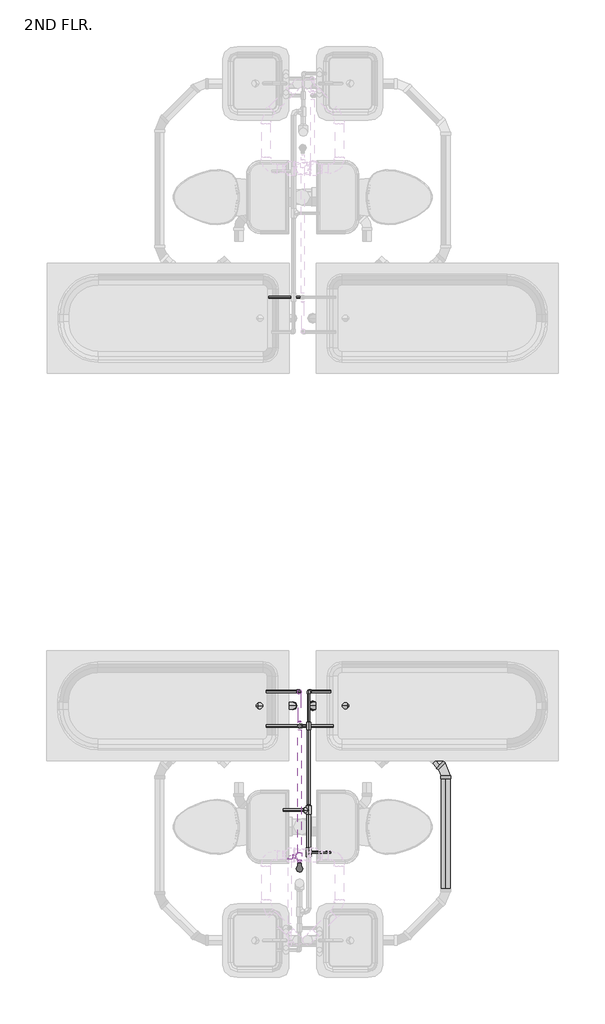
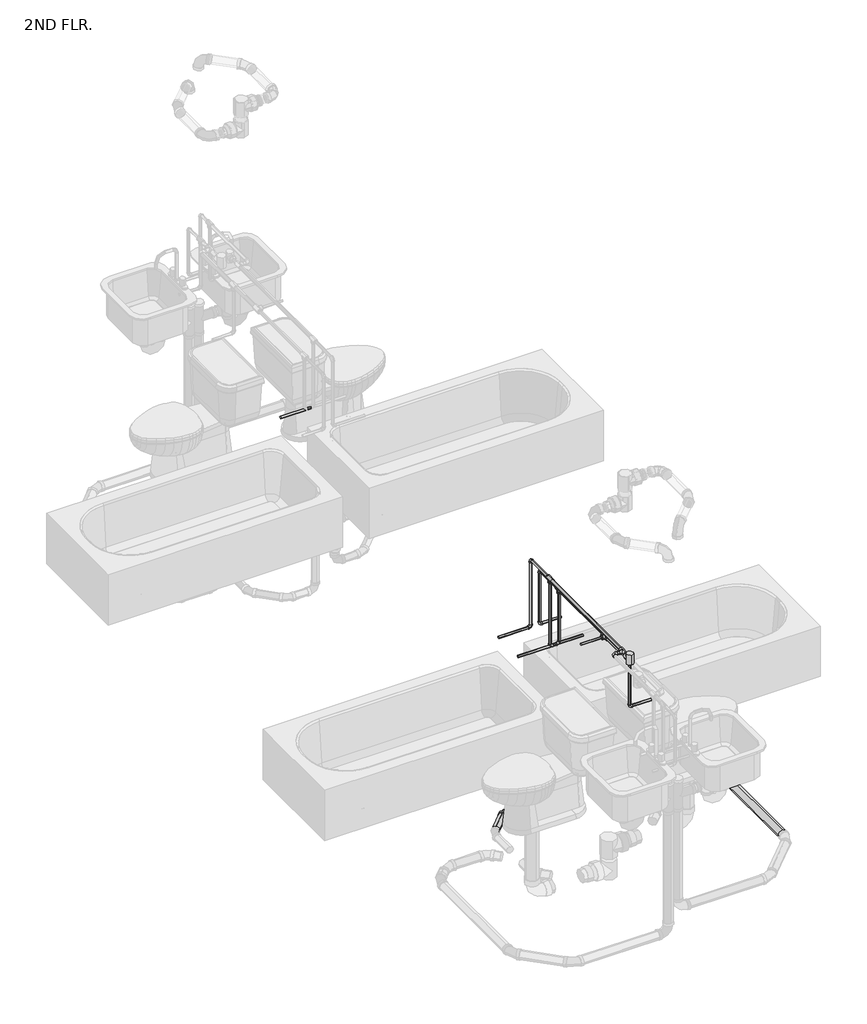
# One storey, part 4 of 15: 34 pipe fittings, 30 pipe segments.
"""IFC4 building model written with IfcOpenShell, lengths in millimetres."""

from ifc_helpers import new_model, si_unit, point, frame, frame_2d, origin, place, context, project, spatial, circle_curve, trimmed, segment, composite_curve, outline, extrude, transform, mapped, element, save
from components import bend_pvc_sch_40_dwv_standard_738aab8b, bend_pvc_sch_40_dwv_standard_e59a9f3a, bend_pvc_sch_40_dwv_standard_35af41d9, bend_pvc_sch_40_dwv_standard_c28c2be1, bend_pvc_sch_40_dwv_standard_f64d1520, pipe_elbow_copper_k_feaaf02c, pipe_elbow_copper_k_aad62f2d, pipe_tee_copper_k_7127fd44, pipe_tee_copper_k_ee363fbf, pipe_tee_copper_k_feafe2f1, pipe_transition_copper_k_859ff352, pipe_transition_copper_k_b4f16853, pipe_transition_copper_k_b63fd5dd, pipe_transition_copper_k_92c68de2, reducer_pvc_sch_40_dwv_standard_b2b0afcc, reducer_pvc_sch_40_dwv_standard_230e9924

model = new_model("IFC4")

# Units and contexts
model_context = context("Model", 3, world=origin())
ifc_project = project(units=[si_unit("LENGTHUNIT", "METRE", prefix="MILLI")], contexts=[model_context])

# Site, building, storey
site = spatial("IfcSite", under=ifc_project)
building = spatial("IfcBuilding", under=site)
storey = spatial("IfcBuildingStorey", under=building, Name="2ND FLR.", Elevation=2844.8)

# Pipe fittings
placement = place(None, origin())
bend_pvc_sch_40_dwv_standard_shape = bend_pvc_sch_40_dwv_standard_738aab8b(model_context)
element("IfcPipeFitting", 1, ObjectType="Bend - PVC - Sch 40 - DWV : Standard", at=placement, inside=storey, context=model_context, shape_type="MappedRepresentation", body=[
    mapped(bend_pvc_sch_40_dwv_standard_shape, transform((2048.7908411, 4158.9665853, 2762.4996815), x_axis=(0.0, 0.0, 1.0), y_axis=(-1.0, 0.0, 0.0), z_axis=(0.0, -1.0, 0.0))),
])
element("IfcPipeFitting", 2, ObjectType="Bend - PVC - Sch 40 - DWV : Standard", at=placement, inside=storey, context=model_context, shape_type="MappedRepresentation", body=[
    mapped(bend_pvc_sch_40_dwv_standard_shape, transform((2048.7908411, 4158.9686503, 2303.9212536), x_axis=(0.0, 0.0, -1.0), y_axis=(-1.0, 0.0, 0.0), z_axis=(0.0, 1.0, 0.0))),
])
element("IfcPipeFitting", 3, ObjectType="Bend - PVC - Sch 40 - DWV : Standard", at=placement, inside=storey, context=model_context, shape_type="MappedRepresentation", body=[
    mapped(bend_pvc_sch_40_dwv_standard_shape, transform((1743.9908411, 4158.9665853, 2762.4996815), x_axis=(-1.0, 0.0, 0.0), y_axis=(0.0, 0.0, 1.0), z_axis=(0.0, 1.0, 0.0))),
])
bend_pvc_sch_40_dwv_standard_2_shape = bend_pvc_sch_40_dwv_standard_e59a9f3a(model_context)
element("IfcPipeFitting", 4, ObjectType="Bend - PVC - Sch 40 - DWV : Standard", at=placement, inside=storey, context=model_context, shape_type="MappedRepresentation", body=[
    mapped(bend_pvc_sch_40_dwv_standard_2_shape, transform((1850.5030506, 4158.9686503, 2303.9212536), x_axis=(-1.0, 0.0, 0.0), y_axis=(0.0, -1.0, 0.0), z_axis=(0.0, 0.0, 1.0))),
])
bend_pvc_sch_40_dwv_standard_3_shape = bend_pvc_sch_40_dwv_standard_35af41d9(model_context)
element("IfcPipeFitting", 5, ObjectType="Bend - PVC - Sch 40 - DWV : Standard", at=placement, inside=storey, context=model_context, shape_type="MappedRepresentation", body=[
    mapped(bend_pvc_sch_40_dwv_standard_3_shape, transform((2187.8261339, 4158.9665853, 2762.4996815), x_axis=(0.0, 0.0, 1.0), y_axis=(-1.0, 0.0, 0.0), z_axis=(0.0, -1.0, 0.0))),
])
element("IfcPipeFitting", 6, ObjectType="Bend - PVC - Sch 40 - DWV : Standard", at=placement, inside=storey, context=model_context, shape_type="MappedRepresentation", body=[
    mapped(bend_pvc_sch_40_dwv_standard_3_shape, transform((2187.8261339, 4158.96967, 2461.5949826), x_axis=(0.0, 0.0, -1.0), y_axis=(-1.0, 0.0, 0.0), z_axis=(0.0, 1.0, 0.0))),
])
element("IfcPipeFitting", 7, ObjectType="Bend - PVC - Sch 40 - DWV : Standard", at=placement, inside=storey, context=model_context, shape_type="MappedRepresentation", body=[
    mapped(bend_pvc_sch_40_dwv_standard_3_shape, transform((2492.6261339, 4158.9665853, 2762.4996815), x_axis=(1.0, 0.0, 0.0), y_axis=(0.0, 0.0, -1.0), z_axis=(0.0, 1.0, 0.0))),
])
bend_pvc_sch_40_dwv_standard_4_shape = bend_pvc_sch_40_dwv_standard_c28c2be1(model_context)
element("IfcPipeFitting", 8, ObjectType="Bend - PVC - Sch 40 - DWV : Standard", at=placement, inside=storey, context=model_context, shape_type="MappedRepresentation", body=[
    mapped(bend_pvc_sch_40_dwv_standard_4_shape, transform((2386.114944, 4158.96967, 2461.5949826), x_axis=(1.0, 0.0, 0.0), y_axis=(0.0, 1.0, 0.0), z_axis=(0.0, 0.0, 1.0))),
])
bend_pvc_sch_40_dwv_standard_5_shape = bend_pvc_sch_40_dwv_standard_f64d1520(model_context)
element("IfcPipeFitting", 9, ObjectType="Bend - PVC - Sch 40 - DWV : Standard", at=placement, inside=storey, context=model_context, shape_type="MappedRepresentation", body=[
    mapped(bend_pvc_sch_40_dwv_standard_5_shape, transform((3108.9116861, 3711.432803, 2461.5689525), x_axis=(0.707106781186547, -0.707106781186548, 0.0), y_axis=(0.707106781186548, 0.707106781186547, 0.0), z_axis=(0.0, 0.0, 1.0))),
])
pipe_elbow_copper_k_shape = pipe_elbow_copper_k_feaaf02c(model_context)
element("IfcPipeFitting", 10, ObjectType="Pipe Elbow : Copper- K", at=placement, inside=storey, context=model_context, shape_type="MappedRepresentation", body=[
    mapped(pipe_elbow_copper_k_shape, transform((2027.8209875, 3115.2451388, 4064.0), x_axis=(-1.0, 0.0, 0.0), y_axis=(0.0, -1.0, 0.0), z_axis=(0.0, 0.0, 1.0))),
])
pipe_elbow_copper_k_2_shape = pipe_elbow_copper_k_aad62f2d(model_context)
element("IfcPipeFitting", 11, ObjectType="Pipe Elbow : Copper- K", at=placement, inside=storey, context=model_context, shape_type="MappedRepresentation", body=[
    mapped(pipe_elbow_copper_k_2_shape, transform((2159.5834875, 3144.8746817, 3606.8), x_axis=(0.0, 0.0, -1.0), y_axis=(1.0, 0.0, 0.0), z_axis=(0.0, -1.0, 0.0))),
])
element("IfcPipeFitting", 12, ObjectType="Pipe Elbow : Copper- K", at=placement, inside=storey, context=model_context, shape_type="MappedRepresentation", body=[
    mapped(pipe_elbow_copper_k_2_shape, transform((2096.0834875, 4258.2262881, 4064.0), x_axis=(0.0, 1.0, 0.0), y_axis=(0.0, 0.0, -1.0), z_axis=(-1.0, 0.0, 0.0))),
])
element("IfcPipeFitting", 13, ObjectType="Pipe Elbow : Copper- K", at=placement, inside=storey, context=model_context, shape_type="MappedRepresentation", body=[
    mapped(pipe_elbow_copper_k_2_shape, transform((2096.0834875, 4258.2262881, 3556.0), x_axis=(0.0, 0.0, -1.0), y_axis=(-1.0, 0.0, 0.0), z_axis=(0.0, 1.0, 0.0))),
])
element("IfcPipeFitting", 14, ObjectType="Pipe Elbow : Copper- K", at=placement, inside=storey, context=model_context, shape_type="MappedRepresentation", body=[
    mapped(pipe_elbow_copper_k_2_shape, transform((2096.0834875, 4018.2053571, 3556.0), x_axis=(0.0, 0.0, -1.0), y_axis=(1.0, 0.0, 0.0), z_axis=(0.0, -1.0, 0.0))),
])
element("IfcPipeFitting", 15, ObjectType="Pipe Elbow : Copper- K", at=placement, inside=storey, context=model_context, shape_type="MappedRepresentation", body=[
    mapped(pipe_elbow_copper_k_2_shape, transform((2159.5834875, 4258.2262881, 3962.4), x_axis=(0.0, 1.0, 0.0), y_axis=(0.0, 0.0, -1.0), z_axis=(-1.0, 0.0, 0.0))),
])
element("IfcPipeFitting", 16, ObjectType="Pipe Elbow : Copper- K", at=placement, inside=storey, context=model_context, shape_type="MappedRepresentation", body=[
    mapped(pipe_elbow_copper_k_2_shape, transform((2159.5834875, 4258.2262881, 3556.0), x_axis=(0.0, 0.0, -1.0), y_axis=(1.0, 0.0, 0.0), z_axis=(0.0, -1.0, 0.0))),
])
element("IfcPipeFitting", 17, ObjectType="Pipe Elbow : Copper- K", at=placement, inside=storey, context=model_context, shape_type="MappedRepresentation", body=[
    mapped(pipe_elbow_copper_k_2_shape, transform((2159.5834875, 4018.2053571, 3556.0), x_axis=(0.0, 0.0, -1.0), y_axis=(-1.0, 0.0, 0.0), z_axis=(0.0, 1.0, 0.0))),
])
pipe_tee_copper_k_shape = pipe_tee_copper_k_7127fd44(model_context)
element("IfcPipeFitting", 18, ObjectType="Pipe Tee : Copper- K", at=placement, inside=storey, context=model_context, shape_type="MappedRepresentation", body=[
    mapped(pipe_tee_copper_k_shape, transform((2096.0834875, 3029.9911151, 4064.0), x_axis=(0.0, 0.0, 1.0), y_axis=(0.0, -1.0, 0.0), z_axis=(1.0, 0.0, 0.0))),
])
pipe_tee_copper_k_2_shape = pipe_tee_copper_k_ee363fbf(model_context)
element("IfcPipeFitting", 19, ObjectType="Pipe Tee : Copper- K", at=placement, inside=storey, context=model_context, shape_type="MappedRepresentation", body=[
    mapped(pipe_tee_copper_k_2_shape, transform((2096.0834875, 4018.2053571, 4064.0), x_axis=(0.0, -1.0, 0.0), y_axis=(0.0, 0.0, 1.0), z_axis=(-1.0, 0.0, 0.0))),
])
element("IfcPipeFitting", 20, ObjectType="Pipe Tee : Copper- K", at=placement, inside=storey, context=model_context, shape_type="MappedRepresentation", body=[
    mapped(pipe_tee_copper_k_2_shape, transform((2159.5834875, 4018.2053571, 3962.4), x_axis=(0.0, -1.0, 0.0), y_axis=(0.0, 0.0, 1.0), z_axis=(-1.0, 0.0, 0.0))),
])
element("IfcPipeFitting", 21, ObjectType="Pipe Tee : Copper- K", at=placement, inside=storey, context=model_context, shape_type="MappedRepresentation", body=[
    mapped(pipe_tee_copper_k_2_shape, transform((2096.0834875, 3115.2451388, 4064.0), x_axis=(0.0, 1.0, 0.0), y_axis=(1.0, 0.0, 0.0), z_axis=(0.0, 0.0, -1.0))),
])
pipe_tee_copper_k_3_shape = pipe_tee_copper_k_feafe2f1(model_context)
element("IfcPipeFitting", 22, ObjectType="Pipe Tee : Copper- K", at=placement, inside=storey, context=model_context, shape_type="MappedRepresentation", body=[
    mapped(pipe_tee_copper_k_3_shape, transform((2159.5834875, 3144.8746817, 3962.4), x_axis=(0.0, -1.0, 0.0), y_axis=(0.0, 0.0, 1.0), z_axis=(-1.0, 0.0, 0.0))),
])
element("IfcPipeFitting", 23, ObjectType="Pipe Tee : Copper- K", at=placement, inside=storey, context=model_context, shape_type="MappedRepresentation", body=[
    mapped(pipe_tee_copper_k_3_shape, transform((2159.5834875, 3436.6777335, 3962.4), x_axis=(0.0, -1.0, 0.0), y_axis=(1.0, 0.0, 0.0), z_axis=(0.0, 0.0, 1.0))),
])
pipe_transition_copper_k_shape = pipe_transition_copper_k_859ff352(model_context)
element("IfcPipeFitting", 24, ObjectType="Pipe Transition : Copper- K", at=placement, inside=storey, context=model_context, shape_type="MappedRepresentation", body=[
    mapped(pipe_transition_copper_k_shape, transform((2096.0834875, 4018.2053571, 4037.0125), x_axis=(0.0, 0.0, -1.0), y_axis=(0.0, 1.0, 0.0), z_axis=(1.0, 0.0, 0.0))),
])
element("IfcPipeFitting", 25, ObjectType="Pipe Transition : Copper- K", at=placement, inside=storey, context=model_context, shape_type="MappedRepresentation", body=[
    mapped(pipe_transition_copper_k_shape, transform((2159.5834875, 4018.2053571, 3935.4125), x_axis=(0.0, 0.0, -1.0), y_axis=(0.0, -1.0, 0.0), z_axis=(-1.0, 0.0, 0.0))),
])
element("IfcPipeFitting", 26, ObjectType="Pipe Transition : Copper- K", at=placement, inside=storey, context=model_context, shape_type="MappedRepresentation", body=[
    mapped(pipe_transition_copper_k_shape, transform((2096.0834875, 4045.1928571, 4064.0), x_axis=(0.0, 1.0, 0.0), y_axis=(-1.0, 0.0, 0.0), z_axis=(0.0, 0.0, 1.0))),
])
element("IfcPipeFitting", 27, ObjectType="Pipe Transition : Copper- K", at=placement, inside=storey, context=model_context, shape_type="MappedRepresentation", body=[
    mapped(pipe_transition_copper_k_shape, transform((2159.5834875, 4045.1928571, 3962.4), x_axis=(0.0, 1.0, 0.0), y_axis=(-1.0, 0.0, 0.0), z_axis=(0.0, 0.0, 1.0))),
])
pipe_transition_copper_k_2_shape = pipe_transition_copper_k_b4f16853(model_context)
element("IfcPipeFitting", 28, ObjectType="Pipe Transition : Copper- K", at=placement, inside=storey, context=model_context, shape_type="MappedRepresentation", body=[
    mapped(pipe_transition_copper_k_2_shape, transform((2159.5834875, 3466.8402335, 3962.4), x_axis=(0.0, 1.0, 0.0), y_axis=(-1.0, 0.0, 0.0), z_axis=(0.0, 0.0, 1.0))),
])
pipe_transition_copper_k_3_shape = pipe_transition_copper_k_b63fd5dd(model_context)
element("IfcPipeFitting", 29, ObjectType="Pipe Transition : Copper- K", at=placement, inside=storey, context=model_context, shape_type="MappedRepresentation", body=[
    mapped(pipe_transition_copper_k_3_shape, transform((2159.5834875, 3144.8746817, 3932.2375), x_axis=(0.0, 0.0, -1.0), y_axis=(0.0, 1.0, 0.0), z_axis=(1.0, 0.0, 0.0))),
])
element("IfcPipeFitting", 30, ObjectType="Pipe Transition : Copper- K", at=placement, inside=storey, context=model_context, shape_type="MappedRepresentation", body=[
    mapped(pipe_transition_copper_k_3_shape, transform((2129.4209875, 3436.6777335, 3962.4), x_axis=(-1.0, 0.0, 0.0), y_axis=(0.0, -1.0, 0.0), z_axis=(0.0, 0.0, 1.0))),
])
pipe_transition_copper_k_4_shape = pipe_transition_copper_k_92c68de2(model_context)
element("IfcPipeFitting", 31, ObjectType="Pipe Transition : Copper- K", at=placement, inside=storey, context=model_context, shape_type="MappedRepresentation", body=[
    mapped(pipe_transition_copper_k_4_shape, transform((2096.0834875, 3066.5036151, 4064.0), x_axis=(0.0, 1.0, 0.0), y_axis=(-1.0, 0.0, 0.0), z_axis=(0.0, 0.0, 1.0))),
])
reducer_pvc_sch_40_dwv_standard_shape = reducer_pvc_sch_40_dwv_standard_b2b0afcc(model_context)
element("IfcPipeFitting", 32, ObjectType="Reducer - PVC - Sch 40 - DWV : Standard", at=placement, inside=storey, context=model_context, shape_type="MappedRepresentation", body=[
    mapped(reducer_pvc_sch_40_dwv_standard_shape, transform((2187.8261339, 4158.9665853, 2700.5998815), x_axis=(0.0, 0.0, -1.0), y_axis=(0.0, -1.0, 0.0), z_axis=(-1.0, 0.0, 0.0))),
])
element("IfcPipeFitting", 33, ObjectType="Reducer - PVC - Sch 40 - DWV : Standard", at=placement, inside=storey, context=model_context, shape_type="MappedRepresentation", body=[
    mapped(reducer_pvc_sch_40_dwv_standard_shape, transform((2492.6261339, 4158.9665853, 2824.3994815), x_axis=(0.0, 0.0, 1.0), y_axis=(1.0, 0.0, 0.0), z_axis=(0.0, 1.0, 0.0))),
])
reducer_pvc_sch_40_dwv_standard_2_shape = reducer_pvc_sch_40_dwv_standard_230e9924(model_context)
element("IfcPipeFitting", 34, ObjectType="Reducer - PVC - Sch 40 - DWV : Standard", at=placement, inside=storey, context=model_context, shape_type="MappedRepresentation", body=[
    mapped(reducer_pvc_sch_40_dwv_standard_2_shape, transform((2187.8261339, 4158.96967, 2523.4947826), x_axis=(0.0, 0.0, 1.0), y_axis=(0.0, 1.0, 0.0), z_axis=(-1.0, 0.0, 0.0))),
])

# Pipe segments
element("IfcPipeSegment", 35, ObjectType="Copper", at=placement, inside=storey, context=model_context, shape_type="SweptSolid", body=[
    extrude(outline(composite_curve([segment(trimmed(circle_curve(frame_2d((6986.022219, 3556.0)), 7.9375), [point((6993.959719, 3556.0))], [point((6986.022219, 3548.0625))], False, "CARTESIAN"), True, "CONTINUOUS"), segment(trimmed(circle_curve(frame_2d((6986.022219, 3556.0)), 7.9375), [point((6986.022219, 3548.0625))], [point((6978.084719, 3556.0))], False, "CARTESIAN"), True, "CONTINUOUS"), segment(trimmed(circle_curve(frame_2d((6986.022219, 3556.0)), 7.9375), [point((6978.084719, 3556.0))], [point((6986.022219, 3563.9375))], False, "CARTESIAN"), True, "CONTINUOUS"), segment(trimmed(circle_curve(frame_2d((6986.022219, 3556.0)), 7.9375), [point((6986.022219, 3563.9375))], [point((6993.959719, 3556.0))], False, "CARTESIAN"), True, "CONTINUOUS")], self_intersect=False)), frame((1883.3584875, 0.0, 0.0), z_axis=(1.0, 0.0, 0.0), x_axis=(0.0, 1.0, 0.0)), (0.0, 0.0, 1.0), 217.4875),
])
element("IfcPipeSegment", 36, ObjectType="Copper", at=placement, inside=storey, context=model_context, shape_type="SweptSolid", body=[
    extrude(outline(composite_curve([segment(trimmed(circle_curve(frame_2d((4064.0, 2096.0834875)), 7.9375), [point((4064.0, 2104.0209875))], [point((4071.9375, 2096.0834875))], False, "CARTESIAN"), True, "CONTINUOUS"), segment(trimmed(circle_curve(frame_2d((4064.0, 2096.0834875)), 7.9375), [point((4071.9375, 2096.0834875))], [point((4064.0, 2088.1459875))], False, "CARTESIAN"), True, "CONTINUOUS"), segment(trimmed(circle_curve(frame_2d((4064.0, 2096.0834875)), 7.9375), [point((4064.0, 2088.1459875))], [point((4056.0625, 2096.0834875))], False, "CARTESIAN"), True, "CONTINUOUS"), segment(trimmed(circle_curve(frame_2d((4064.0, 2096.0834875)), 7.9375), [point((4056.0625, 2096.0834875))], [point((4064.0, 2104.0209875))], False, "CARTESIAN"), True, "CONTINUOUS")], self_intersect=False)), frame((0.0, 4050.7491071, 0.0), z_axis=(0.0, 1.0, 0.0), x_axis=(0.0, 0.0, 1.0)), (0.0, 0.0, 1.0), 190.0146809),
])
element("IfcPipeSegment", 37, ObjectType="Copper", at=placement, inside=storey, context=model_context, shape_type="SweptSolid", body=[
    extrude(outline(composite_curve([segment(trimmed(circle_curve(frame_2d((3115.2451388, 4064.0)), 11.1125), [point((3104.1326388, 4064.0))], [point((3115.2451388, 4075.1125))], False, "CARTESIAN"), True, "CONTINUOUS"), segment(trimmed(circle_curve(frame_2d((3115.2451388, 4064.0)), 11.1125), [point((3115.2451388, 4075.1125))], [point((3126.3576388, 4064.0))], False, "CARTESIAN"), True, "CONTINUOUS"), segment(trimmed(circle_curve(frame_2d((3115.2451388, 4064.0)), 11.1125), [point((3126.3576388, 4064.0))], [point((3115.2451388, 4052.8875))], False, "CARTESIAN"), True, "CONTINUOUS"), segment(trimmed(circle_curve(frame_2d((3115.2451388, 4064.0)), 11.1125), [point((3115.2451388, 4052.8875))], [point((3104.1326388, 4064.0))], False, "CARTESIAN"), True, "CONTINUOUS")], self_intersect=False)), frame((2048.4584875, 0.0, 0.0), z_axis=(1.0, 0.0, 0.0), x_axis=(0.0, 1.0, 0.0)), (0.0, 0.0, 1.0), 20.6375),
])
element("IfcPipeSegment", 38, ObjectType="Copper", at=placement, inside=storey, context=model_context, shape_type="SweptSolid", body=[
    extrude(outline(composite_curve([segment(trimmed(circle_curve(frame_2d((3144.8746817, 3606.8)), 7.9375), [point((3136.9371817, 3606.8))], [point((3144.8746817, 3614.7375))], False, "CARTESIAN"), True, "CONTINUOUS"), segment(trimmed(circle_curve(frame_2d((3144.8746817, 3606.8)), 7.9375), [point((3144.8746817, 3614.7375))], [point((3152.8121817, 3606.8))], False, "CARTESIAN"), True, "CONTINUOUS"), segment(trimmed(circle_curve(frame_2d((3144.8746817, 3606.8)), 7.9375), [point((3152.8121817, 3606.8))], [point((3144.8746817, 3598.8625))], False, "CARTESIAN"), True, "CONTINUOUS"), segment(trimmed(circle_curve(frame_2d((3144.8746817, 3606.8)), 7.9375), [point((3144.8746817, 3598.8625))], [point((3136.9371817, 3606.8))], False, "CARTESIAN"), True, "CONTINUOUS")], self_intersect=False)), frame((2177.0459875, 0.0, 0.0), z_axis=(1.0, 0.0, 0.0), x_axis=(0.0, 1.0, 0.0)), (0.0, 0.0, 1.0), 134.9375),
])
element("IfcPipeSegment", 39, ObjectType="Copper", at=placement, inside=storey, context=model_context, shape_type="SweptSolid", body=[
    extrude(outline(composite_curve([segment(trimmed(circle_curve(frame_2d((2159.5834875, 3144.8746817)), 7.9375), [point((2167.5209875, 3144.8746817))], [point((2159.5834875, 3136.9371817))], False, "CARTESIAN"), True, "CONTINUOUS"), segment(trimmed(circle_curve(frame_2d((2159.5834875, 3144.8746817)), 7.9375), [point((2159.5834875, 3136.9371817))], [point((2151.6459875, 3144.8746817))], False, "CARTESIAN"), True, "CONTINUOUS"), segment(trimmed(circle_curve(frame_2d((2159.5834875, 3144.8746817)), 7.9375), [point((2151.6459875, 3144.8746817))], [point((2159.5834875, 3152.8121817))], False, "CARTESIAN"), True, "CONTINUOUS"), segment(trimmed(circle_curve(frame_2d((2159.5834875, 3144.8746817)), 7.9375), [point((2159.5834875, 3152.8121817))], [point((2167.5209875, 3144.8746817))], False, "CARTESIAN"), True, "CONTINUOUS")], self_intersect=False)), frame((0.0, 0.0, 3624.2625), z_axis=(0.0, 0.0, 1.0), x_axis=(1.0, 0.0, 0.0)), (0.0, 0.0, 1.0), 300.83125),
])
element("IfcPipeSegment", 40, ObjectType="Copper", at=placement, inside=storey, context=model_context, shape_type="SweptSolid", body=[
    extrude(outline(composite_curve([segment(trimmed(circle_curve(frame_2d((3436.6777335, 3962.4)), 7.9375), [point((3444.6152335, 3962.4))], [point((3436.6777335, 3954.4625))], False, "CARTESIAN"), True, "CONTINUOUS"), segment(trimmed(circle_curve(frame_2d((3436.6777335, 3962.4)), 7.9375), [point((3436.6777335, 3954.4625))], [point((3428.7402335, 3962.4))], False, "CARTESIAN"), True, "CONTINUOUS"), segment(trimmed(circle_curve(frame_2d((3436.6777335, 3962.4)), 7.9375), [point((3428.7402335, 3962.4))], [point((3436.6777335, 3970.3375))], False, "CARTESIAN"), True, "CONTINUOUS"), segment(trimmed(circle_curve(frame_2d((3436.6777335, 3962.4)), 7.9375), [point((3436.6777335, 3970.3375))], [point((3444.6152335, 3962.4))], False, "CARTESIAN"), True, "CONTINUOUS")], self_intersect=False)), frame((1981.7834875, 0.0, 0.0), z_axis=(1.0, 0.0, 0.0), x_axis=(0.0, 1.0, 0.0)), (0.0, 0.0, 1.0), 140.49375),
])
element("IfcPipeSegment", 41, ObjectType="Copper", at=placement, inside=storey, context=model_context, shape_type="SweptSolid", body=[
    extrude(outline(composite_curve([segment(trimmed(circle_curve(frame_2d((3962.4, 2159.5834875)), 14.2875), [point((3962.4, 2173.8709875))], [point((3976.6875, 2159.5834875))], False, "CARTESIAN"), True, "CONTINUOUS"), segment(trimmed(circle_curve(frame_2d((3962.4, 2159.5834875)), 14.2875), [point((3976.6875, 2159.5834875))], [point((3962.4, 2145.2959875))], False, "CARTESIAN"), True, "CONTINUOUS"), segment(trimmed(circle_curve(frame_2d((3962.4, 2159.5834875)), 14.2875), [point((3962.4, 2145.2959875))], [point((3948.1125, 2159.5834875))], False, "CARTESIAN"), True, "CONTINUOUS"), segment(trimmed(circle_curve(frame_2d((3962.4, 2159.5834875)), 14.2875), [point((3948.1125, 2159.5834875))], [point((3962.4, 2173.8709875))], False, "CARTESIAN"), True, "CONTINUOUS")], self_intersect=False)), frame((0.0, 3175.0371817, 0.0), z_axis=(0.0, 1.0, 0.0), x_axis=(0.0, 0.0, 1.0)), (0.0, 0.0, 1.0), 231.4780518),
])
element("IfcPipeSegment", 42, ObjectType="Copper", at=placement, inside=storey, context=model_context, shape_type="SweptSolid", body=[
    extrude(outline(composite_curve([segment(trimmed(circle_curve(frame_2d((4258.2262881, 3556.0)), 7.9375), [point((4266.1637881, 3556.0))], [point((4258.2262881, 3548.0625))], False, "CARTESIAN"), True, "CONTINUOUS"), segment(trimmed(circle_curve(frame_2d((4258.2262881, 3556.0)), 7.9375), [point((4258.2262881, 3548.0625))], [point((4250.2887881, 3556.0))], False, "CARTESIAN"), True, "CONTINUOUS"), segment(trimmed(circle_curve(frame_2d((4258.2262881, 3556.0)), 7.9375), [point((4250.2887881, 3556.0))], [point((4258.2262881, 3563.9375))], False, "CARTESIAN"), True, "CONTINUOUS"), segment(trimmed(circle_curve(frame_2d((4258.2262881, 3556.0)), 7.9375), [point((4258.2262881, 3563.9375))], [point((4266.1637881, 3556.0))], False, "CARTESIAN"), True, "CONTINUOUS")], self_intersect=False)), frame((1867.4834875, 0.0, 0.0), z_axis=(1.0, 0.0, 0.0), x_axis=(0.0, 1.0, 0.0)), (0.0, 0.0, 1.0), 211.1375),
])
element("IfcPipeSegment", 43, ObjectType="Copper", at=placement, inside=storey, context=model_context, shape_type="SweptSolid", body=[
    extrude(outline(composite_curve([segment(trimmed(circle_curve(frame_2d((2096.0834875, 4258.2262881)), 7.9375), [point((2104.0209875, 4258.2262881))], [point((2096.0834875, 4250.2887881))], False, "CARTESIAN"), True, "CONTINUOUS"), segment(trimmed(circle_curve(frame_2d((2096.0834875, 4258.2262881)), 7.9375), [point((2096.0834875, 4250.2887881))], [point((2088.1459875, 4258.2262881))], False, "CARTESIAN"), True, "CONTINUOUS"), segment(trimmed(circle_curve(frame_2d((2096.0834875, 4258.2262881)), 7.9375), [point((2088.1459875, 4258.2262881))], [point((2096.0834875, 4266.1637881))], False, "CARTESIAN"), True, "CONTINUOUS"), segment(trimmed(circle_curve(frame_2d((2096.0834875, 4258.2262881)), 7.9375), [point((2096.0834875, 4266.1637881))], [point((2104.0209875, 4258.2262881))], False, "CARTESIAN"), True, "CONTINUOUS")], self_intersect=False)), frame((0.0, 0.0, 3573.4625), z_axis=(0.0, 0.0, 1.0), x_axis=(1.0, 0.0, 0.0)), (0.0, 0.0, 1.0), 473.075),
])
element("IfcPipeSegment", 44, ObjectType="Copper", at=placement, inside=storey, context=model_context, shape_type="SweptSolid", body=[
    extrude(outline(composite_curve([segment(trimmed(circle_curve(frame_2d((4018.2053571, 3556.0)), 7.9375), [point((4010.2678571, 3556.0))], [point((4018.2053571, 3563.9375))], False, "CARTESIAN"), True, "CONTINUOUS"), segment(trimmed(circle_curve(frame_2d((4018.2053571, 3556.0)), 7.9375), [point((4018.2053571, 3563.9375))], [point((4026.1428571, 3556.0))], False, "CARTESIAN"), True, "CONTINUOUS"), segment(trimmed(circle_curve(frame_2d((4018.2053571, 3556.0)), 7.9375), [point((4026.1428571, 3556.0))], [point((4018.2053571, 3548.0625))], False, "CARTESIAN"), True, "CONTINUOUS"), segment(trimmed(circle_curve(frame_2d((4018.2053571, 3556.0)), 7.9375), [point((4018.2053571, 3548.0625))], [point((4010.2678571, 3556.0))], False, "CARTESIAN"), True, "CONTINUOUS")], self_intersect=False)), frame((2113.5459875, 0.0, 0.0), z_axis=(1.0, 0.0, 0.0), x_axis=(0.0, 1.0, 0.0)), (0.0, 0.0, 1.0), 217.4875),
])
element("IfcPipeSegment", 45, ObjectType="Copper", at=placement, inside=storey, context=model_context, shape_type="SweptSolid", body=[
    extrude(outline(composite_curve([segment(trimmed(circle_curve(frame_2d((2096.0834875, 4018.2053571)), 7.9375), [point((2104.0209875, 4018.2053571))], [point((2096.0834875, 4010.2678571))], False, "CARTESIAN"), True, "CONTINUOUS"), segment(trimmed(circle_curve(frame_2d((2096.0834875, 4018.2053571)), 7.9375), [point((2096.0834875, 4010.2678571))], [point((2088.1459875, 4018.2053571))], False, "CARTESIAN"), True, "CONTINUOUS"), segment(trimmed(circle_curve(frame_2d((2096.0834875, 4018.2053571)), 7.9375), [point((2088.1459875, 4018.2053571))], [point((2096.0834875, 4026.1428571))], False, "CARTESIAN"), True, "CONTINUOUS"), segment(trimmed(circle_curve(frame_2d((2096.0834875, 4018.2053571)), 7.9375), [point((2096.0834875, 4026.1428571))], [point((2104.0209875, 4018.2053571))], False, "CARTESIAN"), True, "CONTINUOUS")], self_intersect=False)), frame((0.0, 0.0, 3573.4625), z_axis=(0.0, 0.0, 1.0), x_axis=(1.0, 0.0, 0.0)), (0.0, 0.0, 1.0), 457.99375),
])
element("IfcPipeSegment", 46, ObjectType="Copper", at=placement, inside=storey, context=model_context, shape_type="SweptSolid", body=[
    extrude(outline(composite_curve([segment(trimmed(circle_curve(frame_2d((3962.4, 2159.5834875)), 7.9375), [point((3962.4, 2167.5209875))], [point((3970.3375, 2159.5834875))], False, "CARTESIAN"), True, "CONTINUOUS"), segment(trimmed(circle_curve(frame_2d((3962.4, 2159.5834875)), 7.9375), [point((3970.3375, 2159.5834875))], [point((3962.4, 2151.6459875))], False, "CARTESIAN"), True, "CONTINUOUS"), segment(trimmed(circle_curve(frame_2d((3962.4, 2159.5834875)), 7.9375), [point((3962.4, 2151.6459875))], [point((3954.4625, 2159.5834875))], False, "CARTESIAN"), True, "CONTINUOUS"), segment(trimmed(circle_curve(frame_2d((3962.4, 2159.5834875)), 7.9375), [point((3954.4625, 2159.5834875))], [point((3962.4, 2167.5209875))], False, "CARTESIAN"), True, "CONTINUOUS")], self_intersect=False)), frame((0.0, 4050.7491071, 0.0), z_axis=(0.0, 1.0, 0.0), x_axis=(0.0, 0.0, 1.0)), (0.0, 0.0, 1.0), 190.0146809),
])
element("IfcPipeSegment", 47, ObjectType="Copper", at=placement, inside=storey, context=model_context, shape_type="SweptSolid", body=[
    extrude(outline(composite_curve([segment(trimmed(circle_curve(frame_2d((4258.2262881, 3556.0)), 7.9375), [point((4250.2887881, 3556.0))], [point((4258.2262881, 3563.9375))], False, "CARTESIAN"), True, "CONTINUOUS"), segment(trimmed(circle_curve(frame_2d((4258.2262881, 3556.0)), 7.9375), [point((4258.2262881, 3563.9375))], [point((4266.1637881, 3556.0))], False, "CARTESIAN"), True, "CONTINUOUS"), segment(trimmed(circle_curve(frame_2d((4258.2262881, 3556.0)), 7.9375), [point((4266.1637881, 3556.0))], [point((4258.2262881, 3548.0625))], False, "CARTESIAN"), True, "CONTINUOUS"), segment(trimmed(circle_curve(frame_2d((4258.2262881, 3556.0)), 7.9375), [point((4258.2262881, 3548.0625))], [point((4250.2887881, 3556.0))], False, "CARTESIAN"), True, "CONTINUOUS")], self_intersect=False)), frame((2177.0459875, 0.0, 0.0), z_axis=(1.0, 0.0, 0.0), x_axis=(0.0, 1.0, 0.0)), (0.0, 0.0, 1.0), 134.9375),
])
element("IfcPipeSegment", 48, ObjectType="Copper", at=placement, inside=storey, context=model_context, shape_type="SweptSolid", body=[
    extrude(outline(composite_curve([segment(trimmed(circle_curve(frame_2d((2159.5834875, 4258.2262881)), 7.9375), [point((2167.5209875, 4258.2262881))], [point((2159.5834875, 4250.2887881))], False, "CARTESIAN"), True, "CONTINUOUS"), segment(trimmed(circle_curve(frame_2d((2159.5834875, 4258.2262881)), 7.9375), [point((2159.5834875, 4250.2887881))], [point((2151.6459875, 4258.2262881))], False, "CARTESIAN"), True, "CONTINUOUS"), segment(trimmed(circle_curve(frame_2d((2159.5834875, 4258.2262881)), 7.9375), [point((2151.6459875, 4258.2262881))], [point((2159.5834875, 4266.1637881))], False, "CARTESIAN"), True, "CONTINUOUS"), segment(trimmed(circle_curve(frame_2d((2159.5834875, 4258.2262881)), 7.9375), [point((2159.5834875, 4266.1637881))], [point((2167.5209875, 4258.2262881))], False, "CARTESIAN"), True, "CONTINUOUS")], self_intersect=False)), frame((0.0, 0.0, 3573.4625), z_axis=(0.0, 0.0, 1.0), x_axis=(1.0, 0.0, 0.0)), (0.0, 0.0, 1.0), 371.475),
])
element("IfcPipeSegment", 49, ObjectType="Copper", at=placement, inside=storey, context=model_context, shape_type="SweptSolid", body=[
    extrude(outline(composite_curve([segment(trimmed(circle_curve(frame_2d((4018.2053571, 3556.0)), 7.9375), [point((4026.1428571, 3556.0))], [point((4018.2053571, 3548.0625))], False, "CARTESIAN"), True, "CONTINUOUS"), segment(trimmed(circle_curve(frame_2d((4018.2053571, 3556.0)), 7.9375), [point((4018.2053571, 3548.0625))], [point((4010.2678571, 3556.0))], False, "CARTESIAN"), True, "CONTINUOUS"), segment(trimmed(circle_curve(frame_2d((4018.2053571, 3556.0)), 7.9375), [point((4010.2678571, 3556.0))], [point((4018.2053571, 3563.9375))], False, "CARTESIAN"), True, "CONTINUOUS"), segment(trimmed(circle_curve(frame_2d((4018.2053571, 3556.0)), 7.9375), [point((4018.2053571, 3563.9375))], [point((4026.1428571, 3556.0))], False, "CARTESIAN"), True, "CONTINUOUS")], self_intersect=False)), frame((1867.4834875, 0.0, 0.0), z_axis=(1.0, 0.0, 0.0), x_axis=(0.0, 1.0, 0.0)), (0.0, 0.0, 1.0), 274.6375),
])
element("IfcPipeSegment", 50, ObjectType="Copper", at=placement, inside=storey, context=model_context, shape_type="SweptSolid", body=[
    extrude(outline(composite_curve([segment(trimmed(circle_curve(frame_2d((2159.5834875, 4018.2053571)), 7.9375), [point((2167.5209875, 4018.2053571))], [point((2159.5834875, 4010.2678571))], False, "CARTESIAN"), True, "CONTINUOUS"), segment(trimmed(circle_curve(frame_2d((2159.5834875, 4018.2053571)), 7.9375), [point((2159.5834875, 4010.2678571))], [point((2151.6459875, 4018.2053571))], False, "CARTESIAN"), True, "CONTINUOUS"), segment(trimmed(circle_curve(frame_2d((2159.5834875, 4018.2053571)), 7.9375), [point((2151.6459875, 4018.2053571))], [point((2159.5834875, 4026.1428571))], False, "CARTESIAN"), True, "CONTINUOUS"), segment(trimmed(circle_curve(frame_2d((2159.5834875, 4018.2053571)), 7.9375), [point((2159.5834875, 4026.1428571))], [point((2167.5209875, 4018.2053571))], False, "CARTESIAN"), True, "CONTINUOUS")], self_intersect=False)), frame((0.0, 0.0, 3573.4625), z_axis=(0.0, 0.0, 1.0), x_axis=(1.0, 0.0, 0.0)), (0.0, 0.0, 1.0), 356.39375),
])
element("IfcPipeSegment", 51, ObjectType="Copper", at=placement, inside=storey, context=model_context, shape_type="SweptSolid", body=[
    extrude(outline(composite_curve([segment(trimmed(circle_curve(frame_2d((3962.4, 2159.5834875)), 11.1125), [point((3962.4, 2170.6959875))], [point((3973.5125, 2159.5834875))], False, "CARTESIAN"), True, "CONTINUOUS"), segment(trimmed(circle_curve(frame_2d((3962.4, 2159.5834875)), 11.1125), [point((3973.5125, 2159.5834875))], [point((3962.4, 2148.4709875))], False, "CARTESIAN"), True, "CONTINUOUS"), segment(trimmed(circle_curve(frame_2d((3962.4, 2159.5834875)), 11.1125), [point((3962.4, 2148.4709875))], [point((3951.2875, 2159.5834875))], False, "CARTESIAN"), True, "CONTINUOUS"), segment(trimmed(circle_curve(frame_2d((3962.4, 2159.5834875)), 11.1125), [point((3951.2875, 2159.5834875))], [point((3962.4, 2170.6959875))], False, "CARTESIAN"), True, "CONTINUOUS")], self_intersect=False)), frame((0.0, 3473.9839835, 0.0), z_axis=(0.0, 1.0, 0.0), x_axis=(0.0, 0.0, 1.0)), (0.0, 0.0, 1.0), 517.2338736),
])
element("IfcPipeSegment", 52, ObjectType="Copper", at=placement, inside=storey, context=model_context, shape_type="SweptSolid", body=[
    extrude(outline(composite_curve([segment(trimmed(circle_curve(frame_2d((0.0, -11.1125)), 11.1125), [point((0.0, 0.0))], [point((11.1125, -11.1125))], False, "CARTESIAN"), True, "CONTINUOUS"), segment(trimmed(circle_curve(frame_2d((0.0, -11.1125)), 11.1125), [point((11.1125, -11.1125))], [point((0.0, -22.225))], False, "CARTESIAN"), True, "CONTINUOUS"), segment(trimmed(circle_curve(frame_2d((0.0, -11.1125)), 11.1125), [point((0.0, -22.225))], [point((-11.1125, -11.1125))], False, "CARTESIAN"), True, "CONTINUOUS"), segment(trimmed(circle_curve(frame_2d((0.0, -11.1125)), 11.1125), [point((-11.1125, -11.1125))], [point((0.0, 0.0))], False, "CARTESIAN"), True, "CONTINUOUS")], self_intersect=False)), frame((2084.9709875, 3076.8223651, 4064.0), z_axis=(1.193711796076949e-12, 1.0, 0.0), x_axis=(0.0, 0.0, -1.0)), (0.0, 0.0, 1.0), 11.4352737),
])
element("IfcPipeSegment", 53, ObjectType="Copper", at=placement, inside=storey, context=model_context, shape_type="SweptSolid", body=[
    extrude(outline(composite_curve([segment(trimmed(circle_curve(frame_2d((4064.0, 2096.0834875)), 11.1125), [point((4064.0, 2084.9709875))], [point((4052.8875, 2096.0834875))], False, "CARTESIAN"), True, "CONTINUOUS"), segment(trimmed(circle_curve(frame_2d((4064.0, 2096.0834875)), 11.1125), [point((4052.8875, 2096.0834875))], [point((4064.0, 2107.1959875))], False, "CARTESIAN"), True, "CONTINUOUS"), segment(trimmed(circle_curve(frame_2d((4064.0, 2096.0834875)), 11.1125), [point((4064.0, 2107.1959875))], [point((4075.1125, 2096.0834875))], False, "CARTESIAN"), True, "CONTINUOUS"), segment(trimmed(circle_curve(frame_2d((4064.0, 2096.0834875)), 11.1125), [point((4075.1125, 2096.0834875))], [point((4064.0, 2084.9709875))], False, "CARTESIAN"), True, "CONTINUOUS")], self_intersect=False)), frame((0.0, 3142.2326388, 0.0), z_axis=(0.0, 1.0, 0.0), x_axis=(0.0, 0.0, 1.0)), (0.0, 0.0, 1.0), 848.9852183),
])
element("IfcPipeSegment", 54, ObjectType="PVC - SAN/STORM", at=placement, inside=storey, context=model_context, shape_type="SweptSolid", body=[
    extrude(outline(composite_curve([segment(trimmed(circle_curve(frame_2d((4158.96967, 2461.5949826)), 24.13), [point((4134.83967, 2461.5949826))], [point((4158.96967, 2485.7249826))], False, "CARTESIAN"), True, "CONTINUOUS"), segment(trimmed(circle_curve(frame_2d((4158.96967, 2461.5949826)), 24.13), [point((4158.96967, 2485.7249826))], [point((4183.09967, 2461.5949826))], False, "CARTESIAN"), True, "CONTINUOUS"), segment(trimmed(circle_curve(frame_2d((4158.96967, 2461.5949826)), 24.13), [point((4183.09967, 2461.5949826))], [point((4158.96967, 2437.4649826))], False, "CARTESIAN"), True, "CONTINUOUS"), segment(trimmed(circle_curve(frame_2d((4158.96967, 2461.5949826)), 24.13), [point((4158.96967, 2437.4649826))], [point((4134.83967, 2461.5949826))], False, "CARTESIAN"), True, "CONTINUOUS")], self_intersect=False)), frame((2249.7259339, 0.0, 0.0), z_axis=(1.0, 0.0, 0.0), x_axis=(0.0, 1.0, 0.0)), (0.0, 0.0, 1.0), 90.3642101),
])
element("IfcPipeSegment", 55, ObjectType="PVC - SAN/STORM", at=placement, inside=storey, context=model_context, shape_type="SweptSolid", body=[
    extrude(outline(composite_curve([segment(trimmed(circle_curve(frame_2d((4158.9665853, 2762.4996815)), 24.13), [point((4134.8365853, 2762.4996815))], [point((4158.9665853, 2786.6296815))], False, "CARTESIAN"), True, "CONTINUOUS"), segment(trimmed(circle_curve(frame_2d((4158.9665853, 2762.4996815)), 24.13), [point((4158.9665853, 2786.6296815))], [point((4183.0965853, 2762.4996815))], False, "CARTESIAN"), True, "CONTINUOUS"), segment(trimmed(circle_curve(frame_2d((4158.9665853, 2762.4996815)), 24.13), [point((4183.0965853, 2762.4996815))], [point((4158.9665853, 2738.3696815))], False, "CARTESIAN"), True, "CONTINUOUS"), segment(trimmed(circle_curve(frame_2d((4158.9665853, 2762.4996815)), 24.13), [point((4158.9665853, 2738.3696815))], [point((4134.8365853, 2762.4996815))], False, "CARTESIAN"), True, "CONTINUOUS")], self_intersect=False)), frame((2249.7259339, 0.0, 0.0), z_axis=(1.0, 0.0, 0.0), x_axis=(0.0, 1.0, 0.0)), (0.0, 0.0, 1.0), 181.0004),
])
element("IfcPipeSegment", 56, ObjectType="PVC - SAN/STORM", at=placement, inside=storey, context=model_context, shape_type="SweptSolid", body=[
    extrude(outline(composite_curve([segment(trimmed(circle_curve(frame_2d((0.0, 30.1625)), 30.1625), [point((-30.1625, 30.1625))], [point((0.0, 60.325))], False, "CARTESIAN"), True, "CONTINUOUS"), segment(trimmed(circle_curve(frame_2d((0.0, 30.1625)), 30.1625), [point((0.0, 60.325))], [point((30.1625, 30.1625))], False, "CARTESIAN"), True, "CONTINUOUS"), segment(trimmed(circle_curve(frame_2d((0.0, 30.1625)), 30.1625), [point((30.1625, 30.1625))], [point((0.0, 0.0))], False, "CARTESIAN"), True, "CONTINUOUS"), segment(trimmed(circle_curve(frame_2d((0.0, 30.1625)), 30.1625), [point((0.0, 0.0))], [point((-30.1625, 30.1625))], False, "CARTESIAN"), True, "CONTINUOUS")], self_intersect=False)), frame((2187.8261339, 4128.80717, 2573.4807764), z_axis=(0.0, -3.999237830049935e-05, 0.9999999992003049), x_axis=(1.0, 0.0, 0.0)), (0.0, 0.0, 1.0), 77.130699),
])
element("IfcPipeSegment", 57, ObjectType="PVC - SAN/STORM", at=placement, inside=storey, context=model_context, shape_type="SweptSolid", body=[
    extrude(outline(composite_curve([segment(trimmed(circle_curve(frame_2d((0.0, 24.13)), 24.13), [point((24.13, 24.13))], [point((0.0, 0.0))], False, "CARTESIAN"), True, "CONTINUOUS"), segment(trimmed(circle_curve(frame_2d((0.0, 24.13)), 24.13), [point((0.0, 0.0))], [point((-24.13, 24.13))], False, "CARTESIAN"), True, "CONTINUOUS"), segment(trimmed(circle_curve(frame_2d((0.0, 24.13)), 24.13), [point((-24.13, 24.13))], [point((0.0, 48.26))], False, "CARTESIAN"), True, "CONTINUOUS"), segment(trimmed(circle_curve(frame_2d((0.0, 24.13)), 24.13), [point((0.0, 48.26))], [point((24.13, 24.13))], False, "CARTESIAN"), True, "CONTINUOUS")], self_intersect=False)), frame((2530.4879871, 4014.5966268, 2485.7249826), z_axis=(-0.7071067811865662, 0.7071067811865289, 0.0), x_axis=(0.7071067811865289, 0.7071067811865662, 0.0)), (0.0, 0.0, 1.0), 158.1495157),
])
element("IfcPipeSegment", 58, ObjectType="PVC - SAN/STORM", at=placement, inside=storey, context=model_context, shape_type="SweptSolid", body=[
    extrude(outline(composite_curve([segment(trimmed(circle_curve(frame_2d((2461.5689525, 3108.9116861)), 30.1625), [point((2461.5689525, 3139.0741861))], [point((2491.7314525, 3108.9116861))], False, "CARTESIAN"), True, "CONTINUOUS"), segment(trimmed(circle_curve(frame_2d((2461.5689525, 3108.9116861)), 30.1625), [point((2491.7314525, 3108.9116861))], [point((2461.5689525, 3078.7491861))], False, "CARTESIAN"), True, "CONTINUOUS"), segment(trimmed(circle_curve(frame_2d((2461.5689525, 3108.9116861)), 30.1625), [point((2461.5689525, 3078.7491861))], [point((2431.4064525, 3108.9116861))], False, "CARTESIAN"), True, "CONTINUOUS"), segment(trimmed(circle_curve(frame_2d((2461.5689525, 3108.9116861)), 30.1625), [point((2431.4064525, 3108.9116861))], [point((2461.5689525, 3139.0741861))], False, "CARTESIAN"), True, "CONTINUOUS")], self_intersect=False)), frame((0.0, 2891.85283, 0.0), z_axis=(0.0, 1.0, 0.0), x_axis=(0.0, 0.0, 1.0)), (0.0, 0.0, 1.0), 762.429973),
])
element("IfcPipeSegment", 59, ObjectType="PVC - SAN/STORM", at=placement, inside=storey, context=model_context, shape_type="SweptSolid", body=[
    extrude(outline(composite_curve([segment(trimmed(circle_curve(frame_2d((0.0, 30.1625)), 30.1625), [point((30.1625, 30.1625))], [point((0.0, 0.0))], False, "CARTESIAN"), True, "CONTINUOUS"), segment(trimmed(circle_curve(frame_2d((0.0, 30.1625)), 30.1625), [point((0.0, 0.0))], [point((-30.1625, 30.1625))], False, "CARTESIAN"), True, "CONTINUOUS"), segment(trimmed(circle_curve(frame_2d((0.0, 30.1625)), 30.1625), [point((-30.1625, 30.1625))], [point((0.0, 60.325))], False, "CARTESIAN"), True, "CONTINUOUS"), segment(trimmed(circle_curve(frame_2d((0.0, 30.1625)), 30.1625), [point((0.0, 60.325))], [point((30.1625, 30.1625))], False, "CARTESIAN"), True, "CONTINUOUS")], self_intersect=False)), frame((3068.5005335, 3751.8439556, 2491.7314525), z_axis=(-0.7071067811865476, 0.7071067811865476, 0.0), x_axis=(0.7071067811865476, 0.7071067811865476, 0.0)), (0.0, 0.0, 1.0), 41.0128673),
])
element("IfcPipeSegment", 60, ObjectType="PVC - SAN/STORM", at=placement, inside=storey, context=model_context, shape_type="SweptSolid", body=[
    extrude(outline(composite_curve([segment(trimmed(circle_curve(frame_2d((4158.9686503, 2303.9212536)), 24.13), [point((4183.0986503, 2303.9212536))], [point((4158.9686503, 2279.7912536))], False, "CARTESIAN"), True, "CONTINUOUS"), segment(trimmed(circle_curve(frame_2d((4158.9686503, 2303.9212536)), 24.13), [point((4158.9686503, 2279.7912536))], [point((4134.8386503, 2303.9212536))], False, "CARTESIAN"), True, "CONTINUOUS"), segment(trimmed(circle_curve(frame_2d((4158.9686503, 2303.9212536)), 24.13), [point((4134.8386503, 2303.9212536))], [point((4158.9686503, 2328.0512536))], False, "CARTESIAN"), True, "CONTINUOUS"), segment(trimmed(circle_curve(frame_2d((4158.9686503, 2303.9212536)), 24.13), [point((4158.9686503, 2328.0512536))], [point((4183.0986503, 2303.9212536))], False, "CARTESIAN"), True, "CONTINUOUS")], self_intersect=False)), frame((1896.5278506, 0.0, 0.0), z_axis=(1.0, 0.0, 0.0), x_axis=(0.0, 1.0, 0.0)), (0.0, 0.0, 1.0), 90.3631904),
])
element("IfcPipeSegment", 61, ObjectType="PVC - SAN/STORM", at=placement, inside=storey, context=model_context, shape_type="SweptSolid", body=[
    extrude(outline(composite_curve([segment(trimmed(circle_curve(frame_2d((4158.9665853, 2762.4996815)), 24.13), [point((4183.0965853, 2762.4996815))], [point((4158.9665853, 2738.3696815))], False, "CARTESIAN"), True, "CONTINUOUS"), segment(trimmed(circle_curve(frame_2d((4158.9665853, 2762.4996815)), 24.13), [point((4158.9665853, 2738.3696815))], [point((4134.8365853, 2762.4996815))], False, "CARTESIAN"), True, "CONTINUOUS"), segment(trimmed(circle_curve(frame_2d((4158.9665853, 2762.4996815)), 24.13), [point((4134.8365853, 2762.4996815))], [point((4158.9665853, 2786.6296815))], False, "CARTESIAN"), True, "CONTINUOUS"), segment(trimmed(circle_curve(frame_2d((4158.9665853, 2762.4996815)), 24.13), [point((4158.9665853, 2786.6296815))], [point((4183.0965853, 2762.4996815))], False, "CARTESIAN"), True, "CONTINUOUS")], self_intersect=False)), frame((1805.8906411, 0.0, 0.0), z_axis=(1.0, 0.0, 0.0), x_axis=(0.0, 1.0, 0.0)), (0.0, 0.0, 1.0), 181.0004),
])
element("IfcPipeSegment", 62, ObjectType="PVC - SAN/STORM", at=placement, inside=storey, context=model_context, shape_type="SweptSolid", body=[
    extrude(outline(composite_curve([segment(trimmed(circle_curve(frame_2d((0.0, 24.13)), 24.13), [point((-24.13, 24.13))], [point((0.0, 48.26))], False, "CARTESIAN"), True, "CONTINUOUS"), segment(trimmed(circle_curve(frame_2d((0.0, 24.13)), 24.13), [point((0.0, 48.26))], [point((24.13, 24.13))], False, "CARTESIAN"), True, "CONTINUOUS"), segment(trimmed(circle_curve(frame_2d((0.0, 24.13)), 24.13), [point((24.13, 24.13))], [point((0.0, 0.0))], False, "CARTESIAN"), True, "CONTINUOUS"), segment(trimmed(circle_curve(frame_2d((0.0, 24.13)), 24.13), [point((0.0, 0.0))], [point((-24.13, 24.13))], False, "CARTESIAN"), True, "CONTINUOUS")], self_intersect=False)), frame((2048.7908411, 4134.8386503, 2365.8209048), z_axis=(0.0, -6.168135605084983e-06, 0.9999999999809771), x_axis=(1.0, 0.0, 0.0)), (0.0, 0.0, 1.0), 334.778828),
])
element("IfcPipeSegment", 63, ObjectType="PVC - SAN/STORM", at=placement, inside=storey, context=model_context, shape_type="SweptSolid", body=[
    extrude(outline(composite_curve([segment(trimmed(circle_curve(frame_2d((0.0, 24.13)), 24.13), [point((24.13, 24.13))], [point((0.0, 0.0))], False, "CARTESIAN"), True, "CONTINUOUS"), segment(trimmed(circle_curve(frame_2d((0.0, 24.13)), 24.13), [point((0.0, 0.0))], [point((-24.13, 24.13))], False, "CARTESIAN"), True, "CONTINUOUS"), segment(trimmed(circle_curve(frame_2d((0.0, 24.13)), 24.13), [point((-24.13, 24.13))], [point((0.0, 48.26))], False, "CARTESIAN"), True, "CONTINUOUS"), segment(trimmed(circle_curve(frame_2d((0.0, 24.13)), 24.13), [point((0.0, 48.26))], [point((24.13, 24.13))], False, "CARTESIAN"), True, "CONTINUOUS")], self_intersect=False)), frame((1708.8250685, 4017.2906682, 2328.0512536), z_axis=(0.7071067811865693, 0.7071067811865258, 0.0), x_axis=(0.7071067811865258, -0.7071067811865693, 0.0)), (0.0, 0.0, 1.0), 154.3381238),
])
element("IfcPipeSegment", 64, ObjectType="PVC - SAN/STORM", at=placement, inside=storey, context=model_context, shape_type="SweptSolid", body=[
    extrude(outline(composite_curve([segment(trimmed(circle_curve(frame_2d((1743.9908411, 4158.9665853)), 24.13), [point((1719.8608411, 4158.9665853))], [point((1743.9908411, 4183.0965853))], False, "CARTESIAN"), True, "CONTINUOUS"), segment(trimmed(circle_curve(frame_2d((1743.9908411, 4158.9665853)), 24.13), [point((1743.9908411, 4183.0965853))], [point((1768.1208411, 4158.9665853))], False, "CARTESIAN"), True, "CONTINUOUS"), segment(trimmed(circle_curve(frame_2d((1743.9908411, 4158.9665853)), 24.13), [point((1768.1208411, 4158.9665853))], [point((1743.9908411, 4134.8365853))], False, "CARTESIAN"), True, "CONTINUOUS"), segment(trimmed(circle_curve(frame_2d((1743.9908411, 4158.9665853)), 24.13), [point((1743.9908411, 4134.8365853))], [point((1719.8608411, 4158.9665853))], False, "CARTESIAN"), True, "CONTINUOUS")], self_intersect=False)), frame((0.0, 0.0, 2824.3994815), z_axis=(0.0, 0.0, 1.0), x_axis=(1.0, 0.0, 0.0)), (0.0, 0.0, 1.0), 52.4002),
])

save(model, "model.ifc")
